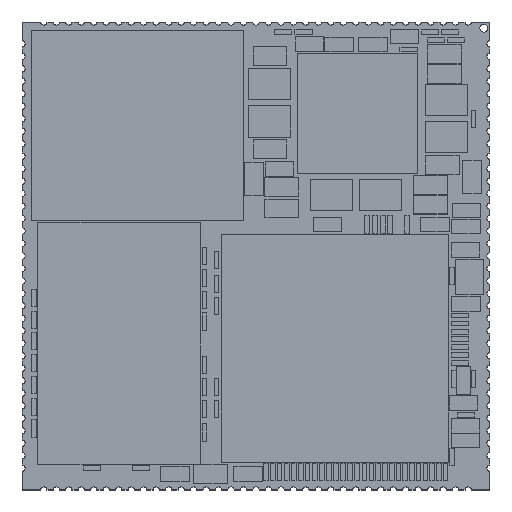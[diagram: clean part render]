
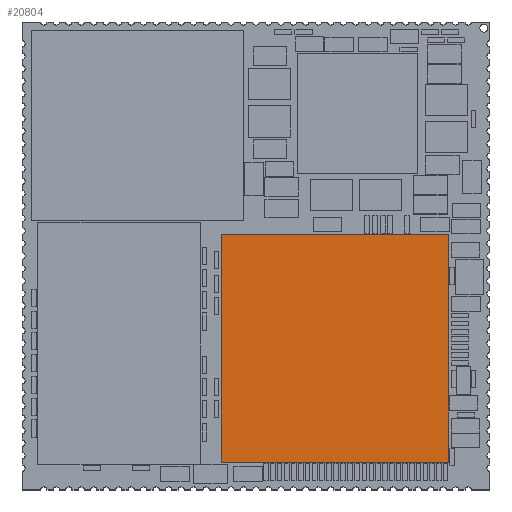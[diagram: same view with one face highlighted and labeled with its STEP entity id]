
A CAD part, top view. The second image highlights one B-rep face of the part: STEP entity #20804.
In plain terms, the highlighted planar face has unit normal (0, 0, 1).
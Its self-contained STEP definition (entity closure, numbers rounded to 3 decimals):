
#722 = CARTESIAN_POINT ( 'NONE',  ( -7.3, -7.3, 1.25 ) ) ;
#1282 = EDGE_CURVE ( 'NONE', #30712, #9050, #3340, .T. ) ;
#1434 = EDGE_CURVE ( 'NONE', #17209, #30712, #4514, .T. ) ;
#1644 = CARTESIAN_POINT ( 'NONE',  ( 7.3, 7.3, 1.25 ) ) ;
#1878 = CARTESIAN_POINT ( 'NONE',  ( -7.3, 7.3, 1.25 ) ) ;
#3340 = LINE ( 'NONE', #16452, #33126 ) ;
#3591 = CARTESIAN_POINT ( 'NONE',  ( 7.3, -7.3, 1.25 ) ) ;
#3933 = ORIENTED_EDGE ( 'NONE', *, *, #23248, .T. ) ;
#4203 = FACE_OUTER_BOUND ( 'NONE', #14975, .T. ) ;
#4514 = LINE ( 'NONE', #9387, #22576 ) ;
#4939 = DIRECTION ( 'NONE',  ( -1., 0., 0. ) ) ;
#4946 = CARTESIAN_POINT ( 'NONE',  ( -7.3, 7.3, 1.25 ) ) ;
#7305 = VECTOR ( 'NONE', #28022, 1000. ) ;
#8916 = ORIENTED_EDGE ( 'NONE', *, *, #1282, .T. ) ;
#9050 = VERTEX_POINT ( 'NONE', #12234 ) ;
#9387 = CARTESIAN_POINT ( 'NONE',  ( -7.3, -7.3, 1.25 ) ) ;
#10770 = CARTESIAN_POINT ( 'NONE',  ( 0., 0., 1.25 ) ) ;
#10805 = DIRECTION ( 'NONE',  ( 0., 0., 1. ) ) ;
#12234 = CARTESIAN_POINT ( 'NONE',  ( 7.3, 7.3, 1.25 ) ) ;
#14103 = ORIENTED_EDGE ( 'NONE', *, *, #30266, .T. ) ;
#14975 = EDGE_LOOP ( 'NONE', ( #3933, #20909, #8916, #14103 ) ) ;
#16452 = CARTESIAN_POINT ( 'NONE',  ( 7.3, -7.3, 1.25 ) ) ;
#16600 = LINE ( 'NONE', #1878, #7305 ) ;
#17209 = VERTEX_POINT ( 'NONE', #722 ) ;
#17425 = VERTEX_POINT ( 'NONE', #4946 ) ;
#20320 = DIRECTION ( 'NONE',  ( 1., 0., 0. ) ) ;
#20619 = DIRECTION ( 'NONE',  ( 1., 0., 0. ) ) ;
#20804 = ADVANCED_FACE ( 'NONE', ( #4203 ), #25504, .T. ) ;
#20909 = ORIENTED_EDGE ( 'NONE', *, *, #1434, .T. ) ;
#22576 = VECTOR ( 'NONE', #20320, 1000. ) ;
#23248 = EDGE_CURVE ( 'NONE', #17425, #17209, #16600, .T. ) ;
#25504 = PLANE ( 'NONE',  #30144 ) ;
#25759 = DIRECTION ( 'NONE',  ( 0., 1., 0. ) ) ;
#27446 = VECTOR ( 'NONE', #4939, 1000. ) ;
#28022 = DIRECTION ( 'NONE',  ( 0., -1., 0. ) ) ;
#30144 = AXIS2_PLACEMENT_3D ( 'NONE', #10770, #10805, #20619 ) ;
#30266 = EDGE_CURVE ( 'NONE', #9050, #17425, #33312, .T. ) ;
#30712 = VERTEX_POINT ( 'NONE', #3591 ) ;
#33126 = VECTOR ( 'NONE', #25759, 1000. ) ;
#33312 = LINE ( 'NONE', #1644, #27446 ) ;
